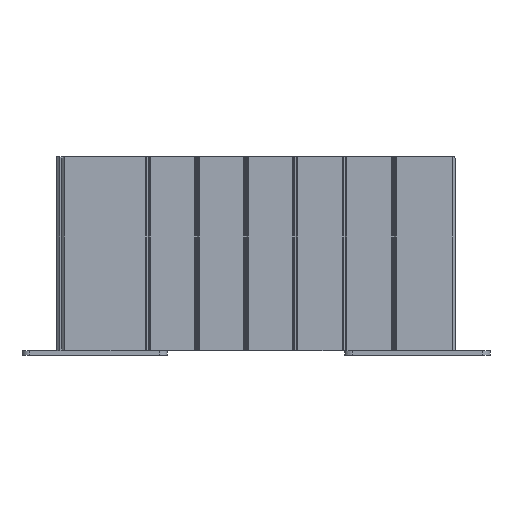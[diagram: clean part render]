
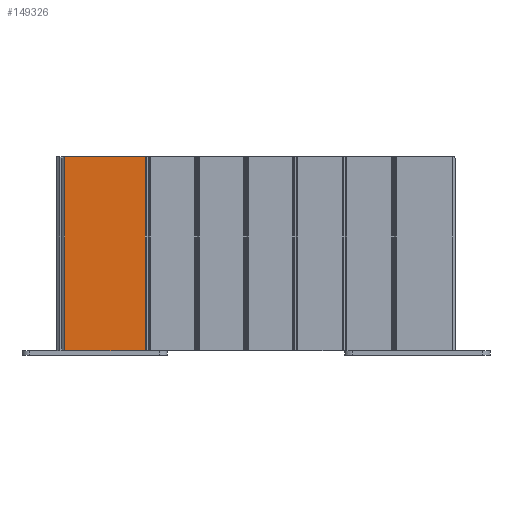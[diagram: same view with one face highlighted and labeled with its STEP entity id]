
A CAD part, front view. The second image highlights one B-rep face of the part: STEP entity #149326.
In plain terms, the highlighted planar face has unit normal (0, -1, 0).
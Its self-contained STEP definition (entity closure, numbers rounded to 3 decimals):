
#140693=DIRECTION('',(-1.,0.,0.));
#140694=VECTOR('',#140693,41.542);
#140695=CARTESIAN_POINT('',(6.566,-66.675,-31.5));
#140696=LINE('',#140695,#140694);
#141013=DIRECTION('',(0.,0.,1.));
#141014=VECTOR('',#141013,100.);
#141015=CARTESIAN_POINT('',(-34.976,-66.675,-31.5));
#141016=LINE('',#141015,#141014);
#141027=DIRECTION('',(-1.,0.,0.));
#141028=VECTOR('',#141027,41.542);
#141029=CARTESIAN_POINT('',(6.566,-66.675,68.5));
#141030=LINE('',#141029,#141028);
#141034=DIRECTION('',(0.,0.,-1.));
#141035=VECTOR('',#141034,100.);
#141036=CARTESIAN_POINT('',(6.566,-66.675,68.5));
#141037=LINE('',#141036,#141035);
#147883=CARTESIAN_POINT('',(-34.976,-66.675,-31.5));
#147885=VERTEX_POINT('',#147883);
#147887=CARTESIAN_POINT('',(6.566,-66.675,68.5));
#147888=CARTESIAN_POINT('',(6.566,-66.675,-31.5));
#147889=VERTEX_POINT('',#147887);
#147890=VERTEX_POINT('',#147888);
#147893=CARTESIAN_POINT('',(-34.976,-66.675,68.5));
#147894=VERTEX_POINT('',#147893);
#149313=CARTESIAN_POINT('',(-14.993,-66.675,68.5));
#149314=DIRECTION('',(0.,-1.,0.));
#149315=DIRECTION('',(-1.,0.,0.));
#149316=AXIS2_PLACEMENT_3D('',#149313,#149314,#149315);
#149317=PLANE('',#149316);
#149319=ORIENTED_EDGE('',*,*,#149318,.T.);
#149320=ORIENTED_EDGE('',*,*,#149209,.T.);
#149321=ORIENTED_EDGE('',*,*,#149303,.T.);
#149323=ORIENTED_EDGE('',*,*,#149322,.F.);
#149324=EDGE_LOOP('',(#149319,#149320,#149321,#149323));
#149325=FACE_OUTER_BOUND('',#149324,.F.);
#149209=EDGE_CURVE('',#147890,#147885,#140696,.T.);
#149303=EDGE_CURVE('',#147885,#147894,#141016,.T.);
#149318=EDGE_CURVE('',#147889,#147890,#141037,.T.);
#149322=EDGE_CURVE('',#147889,#147894,#141030,.T.);
#149326=ADVANCED_FACE('',(#149325),#149317,.T.);
